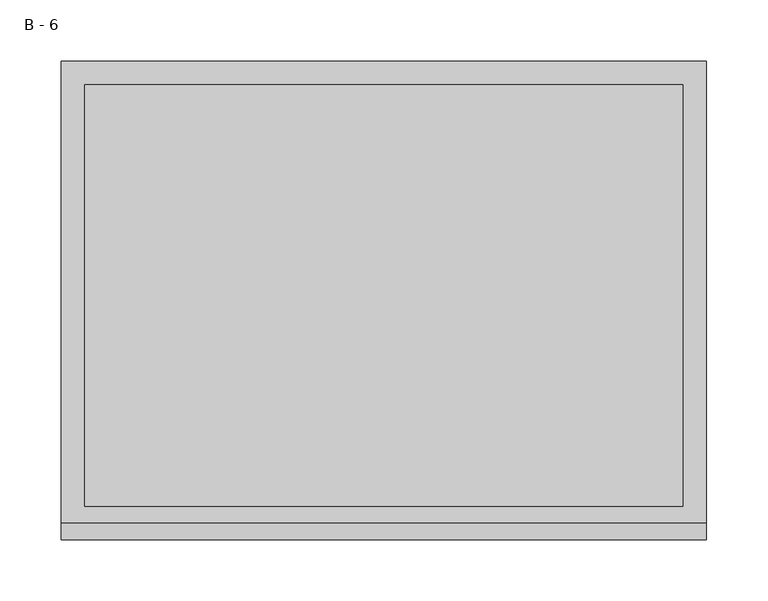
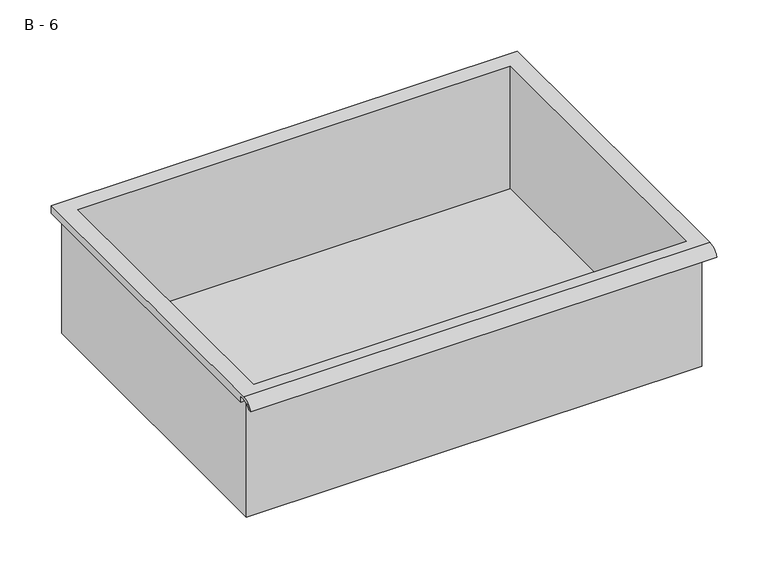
"""IFC4 building model written with IfcOpenShell, lengths in millimetres: furniture geometry, HermanMiller_CoStruc_CO207_Drawer : B - 6."""

from ifc_helpers import new_model, si_unit, frame, origin, place, context, project, spatial, polyline, circle_curve, source, transform, mapped, element, save
from ifc_brep_helpers import plane_surface, cylinder_surface, revolved_surface, advanced_brep


def b_6_f3207868(model_context):
    return source(origin(), model_context, "Body", "AdvancedBrep", [
        advanced_brep(
        [(-257.1076517, -176.2125, 277.8252), (257.2423483, -176.2125, 277.8252), (257.2423483, -176.2125, 417.5252), (263.5923483, -176.2125, 417.5252), (263.5923483, -176.2125, 423.8323341), (-263.4576517, -176.2125, 423.8323341), (-263.4576517, -176.2125, 417.5252), (-257.1076517, -176.2125, 417.5252), (257.2423483, 185.7375, 277.8252), (-257.1076517, 185.7375, 277.8252), (-257.1076517, 185.7375, 417.5252), (257.2423483, 185.7375, 417.5252), (263.5923483, -181.6070544, 427.0502), (263.5923483, 195.2625, 427.0502), (-263.4576517, 195.2625, 427.0502), (-263.4576517, -181.6070544, 427.0502), (244.5423483, -168.275, 427.0502), (-244.4076517, -168.275, 427.0502), (-244.4076517, 176.2125, 427.0502), (244.5423483, 176.2125, 427.0502), (263.5923483, -195.2625, 417.5252), (263.5923483, -191.8280601, 417.5252), (263.5923483, -180.4714815, 423.8323341), (263.5923483, 195.2625, 417.5252), (-263.4576517, 195.2625, 417.5252), (-263.4576517, -180.4714815, 423.8323341), (-263.4576517, -191.8280601, 417.5252), (-263.4576517, -195.2625, 417.5252), (-244.4076517, -168.275, 280.8513719), (244.5423483, -168.275, 280.8513719), (244.5423483, 176.2125, 280.8513719), (-244.4076517, 176.2125, 280.8513719)],
        [
            (0, 1),
            (1, 2),
            (2, 3),
            (3, 4),
            (4, 5),
            (5, 6),
            (6, 7),
            (7, 0),
            (8, 9),
            (9, 10),
            (10, 11),
            (11, 8),
            (0, 9),
            (8, 1),
            (11, 2),
            (12, 13),
            (13, 14),
            (14, 15),
            (15, 12),
            (16, 17),
            (17, 18),
            (18, 19),
            (19, 16),
            (7, 10),
            (12, 20, circle_curve(frame((263.5923483, -181.6070544, 412.4991859), z_axis=(1.0, 0.0, 0.0), x_axis=(0.0, 1.0, 0.0)), 14.5510141)),
            (20, 21),
            (21, 22, circle_curve(frame((263.5923483, -181.6070544, 412.4991859), z_axis=(-1.0, 0.0, 0.0), x_axis=(0.0, 1.0, 0.0)), 11.3898979)),
            (22, 4),
            (3, 23),
            (23, 13),
            (14, 24),
            (24, 6),
            (5, 25),
            (25, 26, circle_curve(frame((-263.4576517, -181.6070544, 412.4991859), z_axis=(1.0, 0.0, 0.0), x_axis=(0.0, 1.0, 0.0)), 11.3898979)),
            (26, 27),
            (27, 15, circle_curve(frame((-263.4576517, -181.6070544, 412.4991859), z_axis=(-1.0, 0.0, 0.0), x_axis=(0.0, 1.0, 0.0)), 14.5510141)),
            (27, 20),
            (26, 21),
            (25, 22),
            (24, 23),
            (28, 29),
            (29, 30),
            (30, 31),
            (31, 28),
            (28, 17),
            (16, 29),
            (19, 30),
            (18, 31),
        ],
        [
            plane_surface(frame((257.2423483, -176.2125, 277.8252), z_axis=(0.0, -1.0, 0.0), x_axis=(1.0, 0.0, 0.0))),
            plane_surface(frame((257.2423483, 185.7375, 277.8252), z_axis=(0.0, 1.0, 0.0), x_axis=(-1.0, 0.0, 0.0))),
            plane_surface(frame((-257.1076517, -176.2125, 277.8252), z_axis=(0.0, 0.0, -1.0), x_axis=(0.0, 1.0, 0.0))),
            plane_surface(frame((257.2423483, -176.2125, 277.8252), z_axis=(1.0, 0.0, 0.0), x_axis=(0.0, 1.0, 0.0))),
            plane_surface(frame((257.2423483, -176.2125, 427.0502), z_axis=(0.0, 0.0, 1.0), x_axis=(0.0, 1.0, 0.0))),
            plane_surface(frame((-257.1076517, -176.2125, 427.0502), z_axis=(-1.0, 0.0, 0.0), x_axis=(0.0, 1.0, 0.0))),
            plane_surface(frame((263.5923483, 195.2625, 427.0502), z_axis=(1.0, 0.0, 0.0), x_axis=(0.0, -1.0, 0.0))),
            plane_surface(frame((-263.4576517, 195.2625, 427.0502), z_axis=(-1.0, 0.0, 0.0), x_axis=(0.0, 1.0, 0.0))),
            cylinder_surface(frame((-263.4576517, -181.6070544, 412.4991859), z_axis=(1.0, 0.0, 0.0), x_axis=(0.0, 1.0, 0.0)), 14.5510141),
            plane_surface(frame((263.5923483, -195.2625, 417.5252), z_axis=(0.0, -7.232115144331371e-12, -1.0), x_axis=(-1.0, 0.0, 0.0))),
            revolved_surface(polyline([(-263.4576517, -170.21715650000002, 412.4991859), (263.59234829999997, -170.21715650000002, 412.4991859)]), (-263.4576517, -181.6070544, 412.4991859), (-1.0, 0.0, 0.0)),
            plane_surface(frame((263.5923483, -180.4714815, 423.8323341), z_axis=(0.0, -1.7877301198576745e-11, -1.0), x_axis=(-1.0, 0.0, 0.0))),
            plane_surface(frame((263.5923483, -176.2125, 417.5252), z_axis=(0.0, 0.0, -1.0), x_axis=(-1.0, 0.0, 0.0))),
            plane_surface(frame((263.5923483, 195.2625, 417.5252), z_axis=(0.0, 1.0, 0.0), x_axis=(-1.0, 0.0, 0.0))),
            plane_surface(frame((244.5423483, -168.275, 280.8513719), z_axis=(0.0, 0.0, 1.0), x_axis=(-1.0, 0.0, 0.0))),
            plane_surface(frame((-244.4076517, -168.275, 427.0502), z_axis=(0.0, 1.0, 0.0), x_axis=(0.0, 0.0, -1.0))),
            plane_surface(frame((244.5423483, -168.275, 427.0502), z_axis=(-1.0, 0.0, 0.0), x_axis=(0.0, 0.0, -1.0))),
            plane_surface(frame((244.5423483, 176.2125, 427.0502), z_axis=(0.0, -1.0, 0.0), x_axis=(0.0, 0.0, -1.0))),
            plane_surface(frame((-244.4076517, 176.2125, 427.0502), z_axis=(1.0, 0.0, 0.0), x_axis=(0.0, 0.0, -1.0))),
        ],
        [
            (0, [[1, 2, 3, 4, 5, 6, 7, 8]]),
            (1, [[9, 10, 11, 12]]),
            (2, [[-1, 13, -9, 14]]),
            (3, [[-14, -12, 15, -2]]),
            (4, [[16, 17, 18, 19], [20, 21, 22, 23]]),
            (5, [[-13, -8, 24, -10]]),
            (6, [[-16, 25, 26, 27, 28, -4, 29, 30]]),
            (7, [[31, 32, -6, 33, 34, 35, 36, -18]]),
            (8, [[-25, -19, -36, 37]]),
            (9, [[-26, -37, -35, 38]]),
            (10, [[-27, -38, -34, 39]]),
            (11, [[-28, -39, -33, -5]]),
            (12, [[-29, -3, -15, -11, -24, -7, -32, 40]]),
            (13, [[-30, -40, -31, -17]]),
            (14, [[41, 42, 43, 44]]),
            (15, [[-41, 45, -20, 46]]),
            (16, [[-42, -46, -23, 47]]),
            (17, [[-43, -47, -22, 48]]),
            (18, [[-44, -48, -21, -45]]),
        ],
    ),
    ])


if __name__ == "__main__":
    model = new_model("IFC4")
    model_context = context("Model", 3, world=origin())
    ifc_project = project(units=[si_unit("LENGTHUNIT", "METRE", prefix="MILLI")], contexts=[model_context])
    site = spatial("IfcSite", under=ifc_project)
    building = spatial("IfcBuilding", under=site)
    placement = place(None, origin())
    b_6_shape = b_6_f3207868(model_context)
    element("IfcFurniture", 1, ObjectType="HermanMiller_CoStruc_CO207_Drawer : B - 6", at=placement, inside=building, context=model_context, shape_type="MappedRepresentation", body=[
        mapped(b_6_shape, transform((0.0, 0.0, 0.0), x_axis=(1.0, 0.0, 0.0), y_axis=(0.0, 1.0, 0.0), z_axis=(0.0, 0.0, 1.0))),
    ])
    save(model, "model.ifc")
